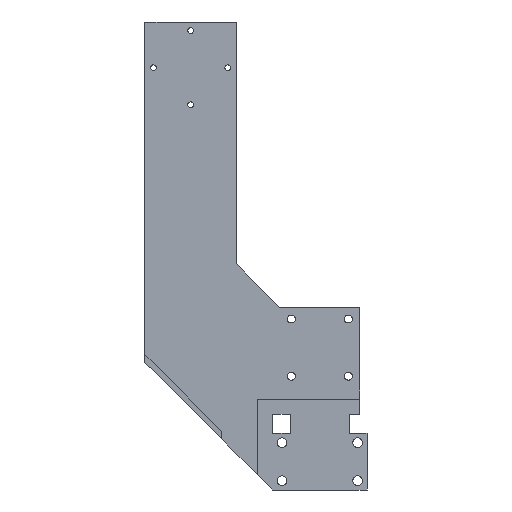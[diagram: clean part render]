
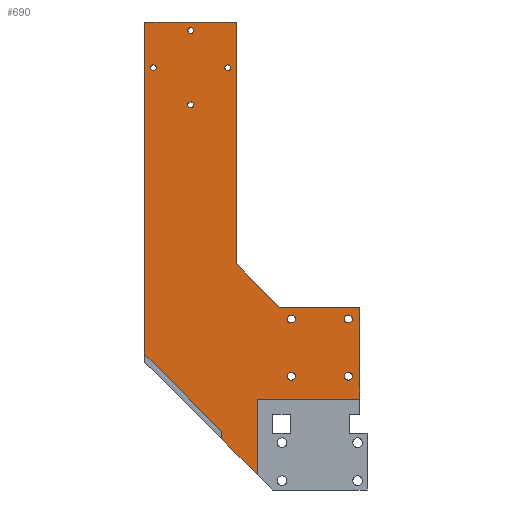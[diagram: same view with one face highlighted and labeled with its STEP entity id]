
A CAD part, left-side view. The second image highlights one B-rep face of the part: STEP entity #690.
In plain terms, the highlighted planar face has unit normal (-1, 0, 0).
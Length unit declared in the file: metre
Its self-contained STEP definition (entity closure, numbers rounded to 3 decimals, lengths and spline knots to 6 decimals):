
#24=LINE('',#1005,#90);
#25=LINE('',#1008,#91);
#26=LINE('',#1010,#92);
#27=LINE('',#1012,#93);
#28=LINE('',#1014,#94);
#29=LINE('',#1016,#95);
#30=LINE('',#1018,#96);
#31=LINE('',#1020,#97);
#32=LINE('',#1022,#98);
#33=LINE('',#1024,#99);
#34=LINE('',#1026,#100);
#90=VECTOR('',#819,1.);
#91=VECTOR('',#820,1.);
#92=VECTOR('',#821,1.);
#93=VECTOR('',#822,1.);
#94=VECTOR('',#823,1.);
#95=VECTOR('',#824,1.);
#96=VECTOR('',#825,1.);
#97=VECTOR('',#826,1.);
#98=VECTOR('',#827,1.);
#99=VECTOR('',#828,1.);
#100=VECTOR('',#829,1.);
#156=ORIENTED_EDGE('',*,*,#336,.T.);
#157=ORIENTED_EDGE('',*,*,#337,.T.);
#158=ORIENTED_EDGE('',*,*,#338,.T.);
#159=ORIENTED_EDGE('',*,*,#339,.T.);
#160=ORIENTED_EDGE('',*,*,#340,.T.);
#161=ORIENTED_EDGE('',*,*,#341,.T.);
#162=ORIENTED_EDGE('',*,*,#342,.T.);
#163=ORIENTED_EDGE('',*,*,#343,.T.);
#164=ORIENTED_EDGE('',*,*,#344,.F.);
#165=ORIENTED_EDGE('',*,*,#345,.T.);
#166=ORIENTED_EDGE('',*,*,#346,.F.);
#167=ORIENTED_EDGE('',*,*,#347,.T.);
#168=ORIENTED_EDGE('',*,*,#348,.F.);
#169=ORIENTED_EDGE('',*,*,#349,.T.);
#170=ORIENTED_EDGE('',*,*,#350,.T.);
#171=ORIENTED_EDGE('',*,*,#351,.T.);
#172=ORIENTED_EDGE('',*,*,#352,.F.);
#173=ORIENTED_EDGE('',*,*,#353,.T.);
#174=ORIENTED_EDGE('',*,*,#354,.T.);
#336=EDGE_CURVE('',#426,#426,#494,.T.);
#337=EDGE_CURVE('',#427,#427,#495,.T.);
#338=EDGE_CURVE('',#428,#428,#496,.T.);
#339=EDGE_CURVE('',#429,#429,#497,.T.);
#340=EDGE_CURVE('',#430,#430,#498,.T.);
#341=EDGE_CURVE('',#431,#431,#499,.T.);
#342=EDGE_CURVE('',#432,#432,#500,.T.);
#343=EDGE_CURVE('',#433,#433,#501,.T.);
#344=EDGE_CURVE('',#434,#435,#24,.T.);
#345=EDGE_CURVE('',#434,#436,#25,.T.);
#346=EDGE_CURVE('',#437,#436,#26,.T.);
#347=EDGE_CURVE('',#437,#438,#27,.T.);
#348=EDGE_CURVE('',#439,#438,#28,.T.);
#349=EDGE_CURVE('',#439,#440,#29,.T.);
#350=EDGE_CURVE('',#440,#441,#30,.T.);
#351=EDGE_CURVE('',#441,#442,#31,.T.);
#352=EDGE_CURVE('',#443,#442,#32,.T.);
#353=EDGE_CURVE('',#443,#444,#33,.T.);
#354=EDGE_CURVE('',#444,#435,#34,.T.);
#426=VERTEX_POINT('',#990);
#427=VERTEX_POINT('',#992);
#428=VERTEX_POINT('',#994);
#429=VERTEX_POINT('',#996);
#430=VERTEX_POINT('',#998);
#431=VERTEX_POINT('',#1000);
#432=VERTEX_POINT('',#1002);
#433=VERTEX_POINT('',#1004);
#434=VERTEX_POINT('',#1006);
#435=VERTEX_POINT('',#1007);
#436=VERTEX_POINT('',#1009);
#437=VERTEX_POINT('',#1011);
#438=VERTEX_POINT('',#1013);
#439=VERTEX_POINT('',#1015);
#440=VERTEX_POINT('',#1017);
#441=VERTEX_POINT('',#1019);
#442=VERTEX_POINT('',#1021);
#443=VERTEX_POINT('',#1023);
#444=VERTEX_POINT('',#1025);
#494=CIRCLE('',#740,0.0015);
#495=CIRCLE('',#741,0.0015);
#496=CIRCLE('',#742,0.0015);
#497=CIRCLE('',#743,0.0015);
#498=CIRCLE('',#744,0.0021);
#499=CIRCLE('',#745,0.0021);
#500=CIRCLE('',#746,0.0021);
#501=CIRCLE('',#747,0.0021);
#518=EDGE_LOOP('',(#156));
#519=EDGE_LOOP('',(#157));
#520=EDGE_LOOP('',(#158));
#521=EDGE_LOOP('',(#159));
#522=EDGE_LOOP('',(#160));
#523=EDGE_LOOP('',(#161));
#524=EDGE_LOOP('',(#162));
#525=EDGE_LOOP('',(#163));
#526=EDGE_LOOP('',(#164,#165,#166,#167,#168,#169,#170,#171,#172,#173,#174));
#592=FACE_BOUND('',#518,.T.);
#593=FACE_BOUND('',#519,.T.);
#594=FACE_BOUND('',#520,.T.);
#595=FACE_BOUND('',#521,.T.);
#596=FACE_BOUND('',#522,.T.);
#597=FACE_BOUND('',#523,.T.);
#598=FACE_BOUND('',#524,.T.);
#599=FACE_BOUND('',#525,.T.);
#600=FACE_BOUND('',#526,.T.);
#666=PLANE('',#739);
#690=ADVANCED_FACE('',(#592,#593,#594,#595,#596,#597,#598,#599,#600),#666,
 .F.);
#739=AXIS2_PLACEMENT_3D('',#988,#801,#802);
#740=AXIS2_PLACEMENT_3D('',#989,#803,#804);
#741=AXIS2_PLACEMENT_3D('',#991,#805,#806);
#742=AXIS2_PLACEMENT_3D('',#993,#807,#808);
#743=AXIS2_PLACEMENT_3D('',#995,#809,#810);
#744=AXIS2_PLACEMENT_3D('',#997,#811,#812);
#745=AXIS2_PLACEMENT_3D('',#999,#813,#814);
#746=AXIS2_PLACEMENT_3D('',#1001,#815,#816);
#747=AXIS2_PLACEMENT_3D('',#1003,#817,#818);
#801=DIRECTION('',(1.,0.,0.));
#802=DIRECTION('',(0.,1.,0.));
#803=DIRECTION('',(1.,0.,0.));
#804=DIRECTION('',(0.,0.,-1.));
#805=DIRECTION('',(1.,0.,0.));
#806=DIRECTION('',(0.,0.,-1.));
#807=DIRECTION('',(1.,0.,0.));
#808=DIRECTION('',(0.,0.,-1.));
#809=DIRECTION('',(1.,0.,0.));
#810=DIRECTION('',(0.,0.,-1.));
#811=DIRECTION('',(1.,0.,0.));
#812=DIRECTION('',(0.,0.,-1.));
#813=DIRECTION('',(1.,0.,0.));
#814=DIRECTION('',(0.,0.,-1.));
#815=DIRECTION('',(1.,0.,0.));
#816=DIRECTION('',(0.,0.,-1.));
#817=DIRECTION('',(1.,0.,0.));
#818=DIRECTION('',(0.,0.,-1.));
#819=DIRECTION('',(0.,0.707,0.707));
#820=DIRECTION('',(0.,0.,-1.));
#821=DIRECTION('',(0.,0.707,0.707));
#822=DIRECTION('',(0.,0.,1.));
#823=DIRECTION('',(0.,1.,0.));
#824=DIRECTION('',(0.,0.,1.));
#825=DIRECTION('',(0.,1.,0.));
#826=DIRECTION('',(0.,0.707,0.707));
#827=DIRECTION('',(0.,0.,-1.));
#828=DIRECTION('',(0.,1.,0.));
#829=DIRECTION('',(0.,0.,-1.));
#988=CARTESIAN_POINT('',(-0.003,0.03356,0.108146));
#989=CARTESIAN_POINT('',(-0.003,0.04844,0.207098));
#990=CARTESIAN_POINT('',(-0.003,0.04844,0.205598));
#991=CARTESIAN_POINT('',(-0.003,0.08744,0.207098));
#992=CARTESIAN_POINT('',(-0.003,0.08744,0.205598));
#993=CARTESIAN_POINT('',(-0.003,0.06794,0.187643));
#994=CARTESIAN_POINT('',(-0.003,0.06794,0.186143));
#995=CARTESIAN_POINT('',(-0.003,0.06794,0.226643));
#996=CARTESIAN_POINT('',(-0.003,0.06794,0.225143));
#997=CARTESIAN_POINT('',(-0.003,-0.015,0.04503));
#998=CARTESIAN_POINT('',(-0.003,-0.015,0.04293));
#999=CARTESIAN_POINT('',(-0.003,0.015,0.04503));
#1000=CARTESIAN_POINT('',(-0.003,0.015,0.04293));
#1001=CARTESIAN_POINT('',(-0.003,-0.015,0.07503));
#1002=CARTESIAN_POINT('',(-0.003,-0.015,0.07293));
#1003=CARTESIAN_POINT('',(-0.003,0.015,0.07503));
#1004=CARTESIAN_POINT('',(-0.003,0.015,0.07293));
#1005=CARTESIAN_POINT('',(-0.003,0.071801,0.036151));
#1006=CARTESIAN_POINT('',(-0.003,0.051682,0.016032));
#1007=CARTESIAN_POINT('',(-0.003,0.09192,0.05627));
#1008=CARTESIAN_POINT('',(-0.003,0.051682,0.014032));
#1009=CARTESIAN_POINT('',(-0.003,0.051682,0.012032));
#1010=CARTESIAN_POINT('',(-0.003,0.071801,0.032151));
#1011=CARTESIAN_POINT('',(-0.003,0.0328,-0.00685));
#1012=CARTESIAN_POINT('',(-0.003,0.0328,0.02895));
#1013=CARTESIAN_POINT('',(-0.003,0.0328,0.03295));
#1014=CARTESIAN_POINT('',(-0.003,0.0028,0.03295));
#1015=CARTESIAN_POINT('',(-0.003,-0.0211,0.03295));
#1016=CARTESIAN_POINT('',(-0.003,-0.0211,0.05704));
#1017=CARTESIAN_POINT('',(-0.003,-0.0211,0.08113));
#1018=CARTESIAN_POINT('',(-0.003,0.,0.08113));
#1019=CARTESIAN_POINT('',(-0.003,0.0211,0.08113));
#1020=CARTESIAN_POINT('',(-0.003,0.03253,0.09256));
#1021=CARTESIAN_POINT('',(-0.003,0.04396,0.10399));
#1022=CARTESIAN_POINT('',(-0.003,0.04396,0.167566));
#1023=CARTESIAN_POINT('',(-0.003,0.04396,0.231143));
#1024=CARTESIAN_POINT('',(-0.003,0.07993,0.231143));
#1025=CARTESIAN_POINT('',(-0.003,0.09192,0.231143));
#1026=CARTESIAN_POINT('',(-0.003,0.09192,0.143706));
